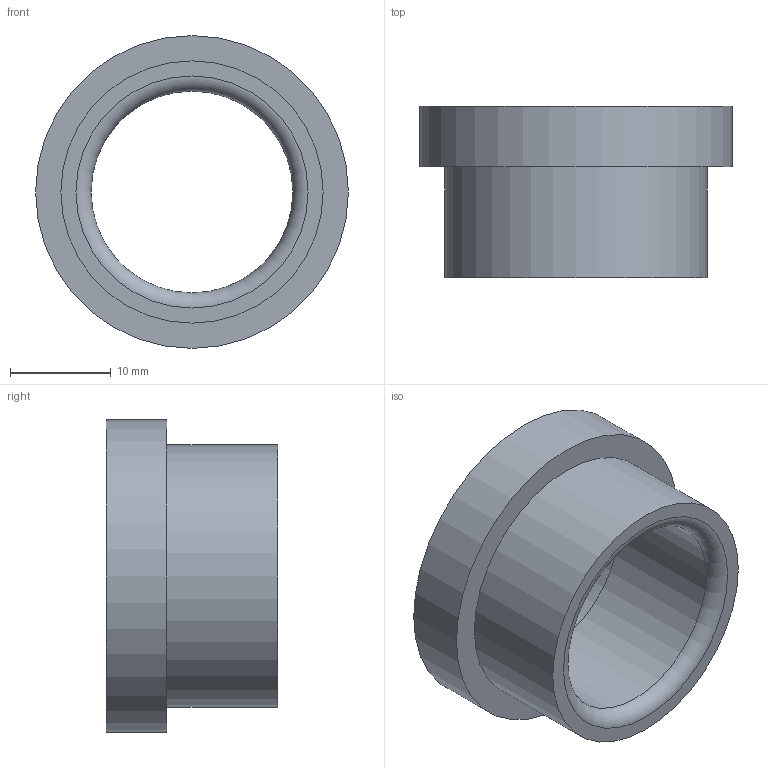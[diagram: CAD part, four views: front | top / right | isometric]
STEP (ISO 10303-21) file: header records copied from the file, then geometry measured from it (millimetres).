
FILE_DESCRIPTION(/* description */ ('STEP AP214'),/* implementation_level */ '2;1');
FILE_NAME(/* name */ '03_12_17920',/* time_stamp */ '2023-06-15T11:35:30+02:00',/* author */ ('License CC BY-ND 4.0'),/* organization */ ('CADENAS'),/* preprocessor_version */ 'ST-DEVELOPER v19.3',/* originating_system */ 'PARTsolutions',/* authorisation */ ' ');
FILE_SCHEMA (('AUTOMOTIVE_DESIGN {1 0 10303 214 3 1 1}'));
Length unit declared in the file: millimetre
Products named in the file (1): VA_Bushing_17920
Bounding box: 31 x 17 x 31 mm (x, y, z)
Volume: 4899.4 mm3; surface area: 3358.5 mm2
Topology: 1 solids, 1 shells, 10 faces, 16 edges, 10 vertices
Faces by surface type: cylinder 4, plane 4, torus 2
Full cylindrical faces by diameter (mm): 20 x1, 20.6 x1, 26 x1, 31 x1
Entity records: 302 total; most frequent: DIRECTION 42, CARTESIAN_POINT 31, AXIS2_PLACEMENT_3D 21, ORIENTED_EDGE 20, EDGE_LOOP 20, FACE_BOUND 20, EDGE_CURVE 10, VERTEX_POINT 10
